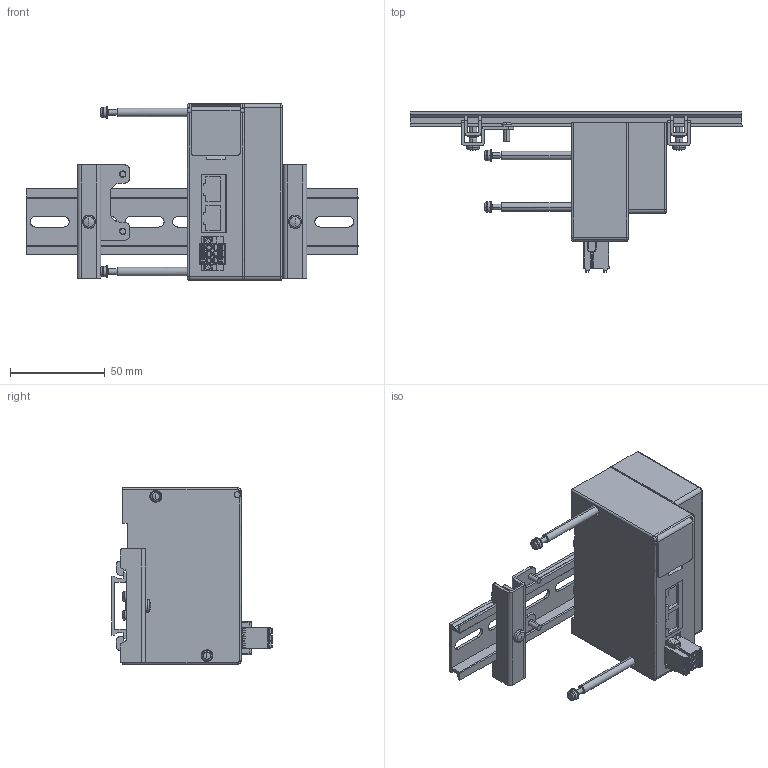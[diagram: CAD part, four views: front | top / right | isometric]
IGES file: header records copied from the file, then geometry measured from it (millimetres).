
Start section: ------------------------------------------------------------------------
Bounding box: 175 x 84.4 x 93 mm (x, y, z)
Volume: 277516.7 mm3; surface area: 62911.2 mm2
Topology: 4 solids, 4 shells, 1019 faces, 2679 edges, 1721 vertices
Faces by surface type: bspline 1019
